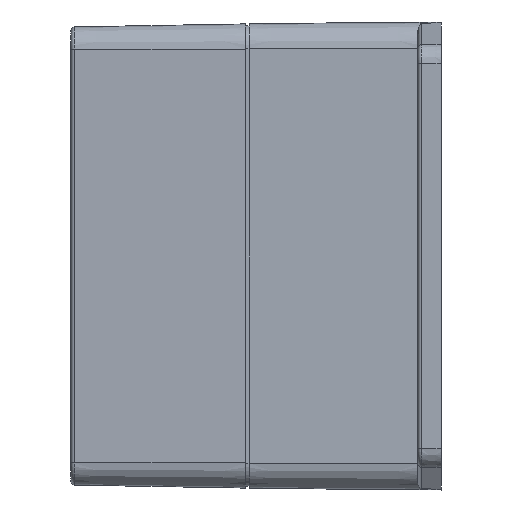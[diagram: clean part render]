
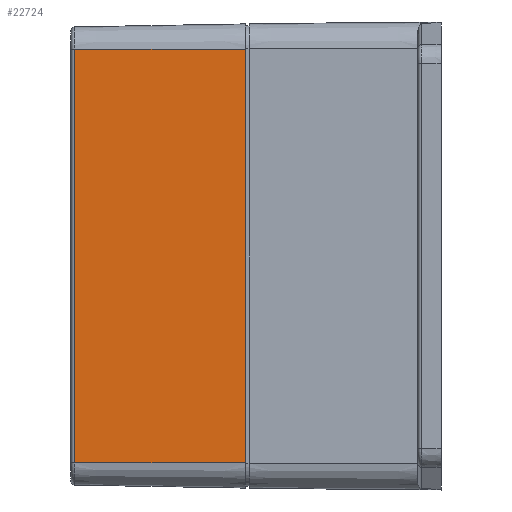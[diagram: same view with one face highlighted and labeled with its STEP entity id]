
A CAD part, left-side view. The second image highlights one B-rep face of the part: STEP entity #22724.
In plain terms, the highlighted planar face has unit normal (-1, 0.018, 0).
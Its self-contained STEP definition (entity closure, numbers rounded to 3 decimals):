
#2186 = CARTESIAN_POINT ( 'NONE',  ( -60., 0., 53.5 ) ) ;
#2389 = LINE ( 'NONE', #2186, #37997 ) ;
#3262 = AXIS2_PLACEMENT_3D ( 'NONE', #28478, #18555, #22131 ) ;
#4872 = ORIENTED_EDGE ( 'NONE', *, *, #18314, .T. ) ;
#6131 = CARTESIAN_POINT ( 'NONE',  ( -60., 0., 53.5 ) ) ;
#6684 = EDGE_CURVE ( 'NONE', #8300, #10467, #33046, .T. ) ;
#7279 = CARTESIAN_POINT ( 'NONE',  ( -59.23, 44.117, 53.5 ) ) ;
#8032 = VECTOR ( 'NONE', #12838, 1000. ) ;
#8300 = VERTEX_POINT ( 'NONE', #7279 ) ;
#9072 = CARTESIAN_POINT ( 'NONE',  ( -59.23, 44.117, -53.5 ) ) ;
#10055 = DIRECTION ( 'NONE',  ( 0., 0., -1. ) ) ;
#10467 = VERTEX_POINT ( 'NONE', #6131 ) ;
#11135 = EDGE_LOOP ( 'NONE', ( #24402, #4872, #23025, #29229 ) ) ;
#11494 = DIRECTION ( 'NONE',  ( 0., 0., 1. ) ) ;
#12695 = CARTESIAN_POINT ( 'NONE',  ( -60., 0., -53.5 ) ) ;
#12838 = DIRECTION ( 'NONE',  ( -0.017, -1., 0. ) ) ;
#15799 = FACE_OUTER_BOUND ( 'NONE', #11135, .T. ) ;
#17987 = CARTESIAN_POINT ( 'NONE',  ( -60., 0., 53.5 ) ) ;
#18238 = VERTEX_POINT ( 'NONE', #9072 ) ;
#18314 = EDGE_CURVE ( 'NONE', #8300, #18238, #18935, .T. ) ;
#18555 = DIRECTION ( 'NONE',  ( -1., 0.017, 0. ) ) ;
#18935 = LINE ( 'NONE', #30837, #25842 ) ;
#19289 = DIRECTION ( 'NONE',  ( -0.017, -1., 0. ) ) ;
#21547 = PLANE ( 'NONE',  #3262 ) ;
#22131 = DIRECTION ( 'NONE',  ( -0.017, -1., 0. ) ) ;
#22465 = EDGE_CURVE ( 'NONE', #35994, #10467, #2389, .T. ) ;
#22724 = ADVANCED_FACE ( 'NONE', ( #15799 ), #21547, .T. ) ;
#23025 = ORIENTED_EDGE ( 'NONE', *, *, #37558, .T. ) ;
#24402 = ORIENTED_EDGE ( 'NONE', *, *, #6684, .F. ) ;
#25842 = VECTOR ( 'NONE', #10055, 1000. ) ;
#27651 = VECTOR ( 'NONE', #19289, 1000. ) ;
#28478 = CARTESIAN_POINT ( 'NONE',  ( -60., 0., 53.5 ) ) ;
#28620 = CARTESIAN_POINT ( 'NONE',  ( -60., 0., -53.5 ) ) ;
#29229 = ORIENTED_EDGE ( 'NONE', *, *, #22465, .T. ) ;
#30837 = CARTESIAN_POINT ( 'NONE',  ( -59.23, 44.117, 53.5 ) ) ;
#33046 = LINE ( 'NONE', #17987, #8032 ) ;
#35994 = VERTEX_POINT ( 'NONE', #12695 ) ;
#37490 = LINE ( 'NONE', #28620, #27651 ) ;
#37558 = EDGE_CURVE ( 'NONE', #18238, #35994, #37490, .T. ) ;
#37997 = VECTOR ( 'NONE', #11494, 1000. ) ;
